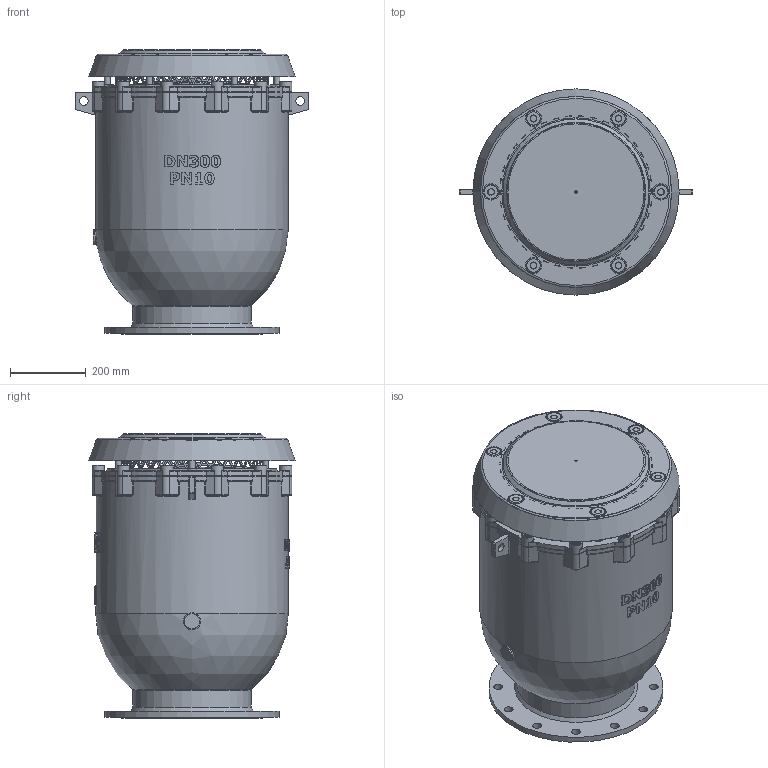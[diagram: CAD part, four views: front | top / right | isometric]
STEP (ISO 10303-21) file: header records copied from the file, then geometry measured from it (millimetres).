
FILE_DESCRIPTION(('STEP AP242'), '1');
FILE_NAME('Âîçäóøíûé êëàïàí DUOJET KX', '', ('UNSPECIFIED'), ('UNSPECIFIED'), 'C3D Converter', 'C3D Toolkit', '');
FILE_SCHEMA(('AP242_MANAGED_MODEL_BASED_3D_ENGINEERING_MIM_LF { 1 0 10303 442 1 1 4 }'));
Length unit declared in the file: millimetre
Assembly tree (45 placements, depth 2):
  (unnamed)
    (unnamed)
    (unnamed)
    (unnamed)
    (unnamed)
    (unnamed)
    (unnamed)
    (unnamed)  x6
    (unnamed)  x6
    (unnamed)
    (unnamed)
    (unnamed)
    (unnamed)  x5
    (unnamed)  x7
    (unnamed)  x6
    (unnamed)  x6
Bounding box: 616 x 544 x 750 mm (x, y, z)
Volume: 15903397.2 mm3; surface area: 6946107.3 mm2
Topology: 59 solids, 60 shells, 2244 faces, 5818 edges, 3751 vertices
Faces by surface type: plane 786, bspline 551, cylinder 548, extrusion 157, torus 107, cone 82, sphere 13
Full cylindrical faces by diameter (mm): 6 x3, 9 x2, 10 x18, 10.5 x6, 11 x12, 12 x6, 16 x54, 22.883 x2, 23 x12, 24 x12, 25.6 x12, 30 x6, 32 x12, 40 x1, 61.675 x1, 75 x2, 81 x1, 300 x2, 312 x1, 400 x2, 402 x1, 421 x2, 427 x1, 444 x1, 448 x2, 460 x3, 482 x2, 484 x2, 496 x1, 508 x1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
Entity records: 160264 total; most frequent: CARTESIAN_POINT 113272, ORIENTED_EDGE 9718, DIRECTION 6784, EDGE_CURVE 4859, VERTEX_POINT 3261, AXIS2_PLACEMENT_3D 2587, EDGE_LOOP 2405, B_SPLINE_CURVE_WITH_KNOTS 2182
